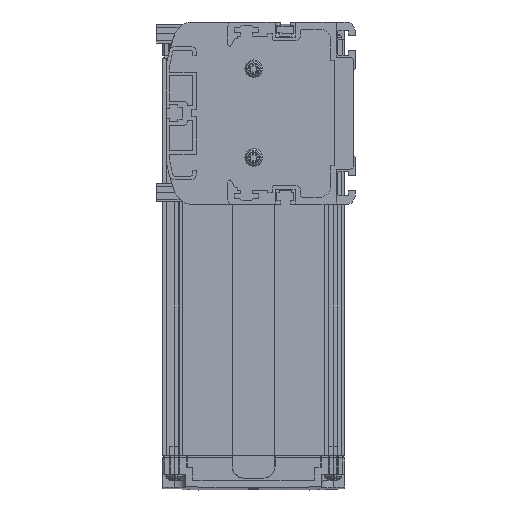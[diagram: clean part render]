
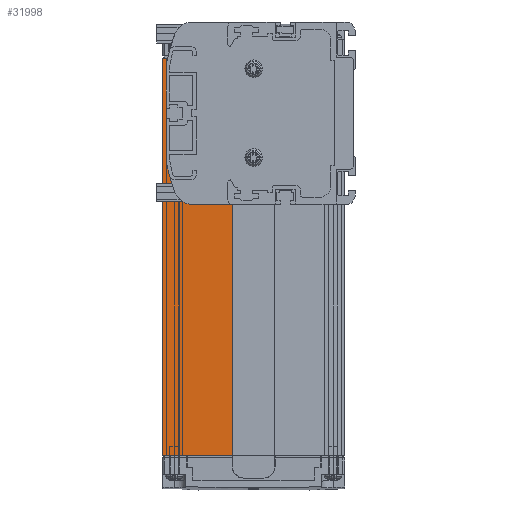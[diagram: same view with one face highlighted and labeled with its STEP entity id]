
A CAD part, left-side view. The second image highlights one B-rep face of the part: STEP entity #31998.
In plain terms, the highlighted planar face has unit normal (-1, 0, 0).
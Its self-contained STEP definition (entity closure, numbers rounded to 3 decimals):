
#5129=CARTESIAN_POINT('',(3.,79.,19.823));
#5130=DIRECTION('',(1.,0.,0.));
#5131=DIRECTION('',(0.,1.,0.));
#5132=AXIS2_PLACEMENT_3D('',#5129,#5130,#5131);
#5142=DIRECTION('',(0.,0.,1.));
#5143=VECTOR('',#5142,39.645);
#5144=CARTESIAN_POINT('',(3.,81.,-19.823));
#5145=LINE('',#5144,#5143);
#5182=CARTESIAN_POINT('',(3.,79.,-19.823));
#5183=DIRECTION('',(-1.,0.,0.));
#5184=DIRECTION('',(0.,1.,0.));
#5185=AXIS2_PLACEMENT_3D('',#5182,#5183,#5184);
#5191=CARTESIAN_POINT('',(3.,2.235,-6.));
#5192=DIRECTION('',(1.,0.,0.));
#5193=DIRECTION('',(0.,0.938,-0.347));
#5194=AXIS2_PLACEMENT_3D('',#5191,#5192,#5193);
#5526=CARTESIAN_POINT('',(3.,2.235,6.));
#5527=DIRECTION('',(1.,0.,0.));
#5528=DIRECTION('',(0.,0.984,0.177));
#5529=AXIS2_PLACEMENT_3D('',#5526,#5527,#5528);
#5544=DIRECTION('',(0.,-1.,0.));
#5545=VECTOR('',#5544,29.9);
#5546=CARTESIAN_POINT('',(3.,82.5,-146.5));
#5547=LINE('',#5546,#5545);
#5548=DIRECTION('',(0.,1.,0.));
#5549=VECTOR('',#5548,2.203);
#5550=CARTESIAN_POINT('',(3.,80.297,23.5));
#5551=LINE('',#5550,#5549);
#5552=DIRECTION('',(0.,-1.,0.));
#5553=VECTOR('',#5552,17.155);
#5554=CARTESIAN_POINT('',(3.,69.755,-39.));
#5555=LINE('',#5554,#5553);
#5590=CARTESIAN_POINT('',(3.,69.755,-31.));
#5591=DIRECTION('',(1.,0.,0.));
#5592=DIRECTION('',(0.,0.,-1.));
#5593=AXIS2_PLACEMENT_3D('',#5590,#5591,#5592);
#11440=DIRECTION('',(0.,0.,1.));
#11441=VECTOR('',#11440,170.);
#11442=CARTESIAN_POINT('',(3.,82.5,-146.5));
#11443=LINE('',#11442,#11441);
#13737=DIRECTION('',(0.,0.,1.));
#13738=VECTOR('',#13737,107.5);
#13739=CARTESIAN_POINT('',(3.,52.6,-146.5));
#13740=LINE('',#13739,#13738);
#19623=CARTESIAN_POINT('',(3.,82.5,23.5));
#19624=VERTEX_POINT('',#19623);
#19669=CARTESIAN_POINT('',(3.,82.5,-146.5));
#19670=VERTEX_POINT('',#19669);
#19671=CARTESIAN_POINT('',(3.,52.6,-146.5));
#19672=VERTEX_POINT('',#19671);
#24085=CARTESIAN_POINT('',(3.,69.755,-39.));
#24086=CARTESIAN_POINT('',(3.,52.6,-39.));
#24087=VERTEX_POINT('',#24085);
#24088=VERTEX_POINT('',#24086);
#24089=CARTESIAN_POINT('',(3.,80.297,23.5));
#24091=VERTEX_POINT('',#24089);
#24113=CARTESIAN_POINT('',(3.,81.,-19.823));
#24114=CARTESIAN_POINT('',(3.,80.968,-20.177));
#24115=VERTEX_POINT('',#24113);
#24116=VERTEX_POINT('',#24114);
#24117=CARTESIAN_POINT('',(3.,77.257,-33.778));
#24118=VERTEX_POINT('',#24117);
#24131=CARTESIAN_POINT('',(3.,80.968,20.177));
#24132=VERTEX_POINT('',#24131);
#24133=CARTESIAN_POINT('',(3.,81.,19.823));
#24134=VERTEX_POINT('',#24133);
#31974=CARTESIAN_POINT('',(3.,67.55,-61.5));
#31975=DIRECTION('',(1.,0.,0.));
#31976=DIRECTION('',(0.,1.,0.));
#31977=AXIS2_PLACEMENT_3D('',#31974,#31975,#31976);
#31978=PLANE('',#31977);
#31980=ORIENTED_EDGE('',*,*,#31979,.T.);
#31982=ORIENTED_EDGE('',*,*,#31981,.F.);
#31984=ORIENTED_EDGE('',*,*,#31983,.F.);
#31986=ORIENTED_EDGE('',*,*,#31985,.T.);
#31988=ORIENTED_EDGE('',*,*,#31987,.F.);
#31989=ORIENTED_EDGE('',*,*,#31958,.F.);
#31990=ORIENTED_EDGE('',*,*,#31390,.F.);
#31991=ORIENTED_EDGE('',*,*,#31405,.F.);
#31992=ORIENTED_EDGE('',*,*,#31444,.T.);
#31993=ORIENTED_EDGE('',*,*,#31461,.F.);
#31995=ORIENTED_EDGE('',*,*,#31994,.F.);
#31996=EDGE_LOOP('',(#31980,#31982,#31984,#31986,#31988,#31989,#31990,#31991,
#31992,#31993,#31995));
#31997=FACE_OUTER_BOUND('',#31996,.F.);
#31998=ADVANCED_FACE('',(#31997),#31978,.F.);
#5133=CIRCLE('',#5132,2.);
#5186=CIRCLE('',#5185,2.);
#5195=CIRCLE('',#5194,80.);
#5530=CIRCLE('',#5529,80.);
#5594=CIRCLE('',#5593,8.);
#31390=EDGE_CURVE('',#24134,#24132,#5133,.T.);
#31405=EDGE_CURVE('',#24115,#24134,#5145,.T.);
#31444=EDGE_CURVE('',#24115,#24116,#5186,.T.);
#31461=EDGE_CURVE('',#24118,#24116,#5195,.T.);
#31958=EDGE_CURVE('',#24132,#24091,#5530,.T.);
#31979=EDGE_CURVE('',#24087,#24088,#5555,.T.);
#31981=EDGE_CURVE('',#19672,#24088,#13740,.T.);
#31983=EDGE_CURVE('',#19670,#19672,#5547,.T.);
#31985=EDGE_CURVE('',#19670,#19624,#11443,.T.);
#31987=EDGE_CURVE('',#24091,#19624,#5551,.T.);
#31994=EDGE_CURVE('',#24087,#24118,#5594,.T.);
